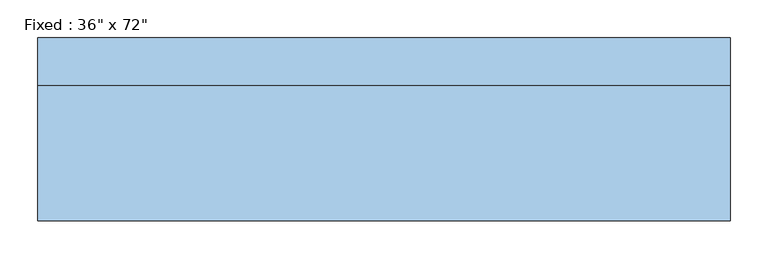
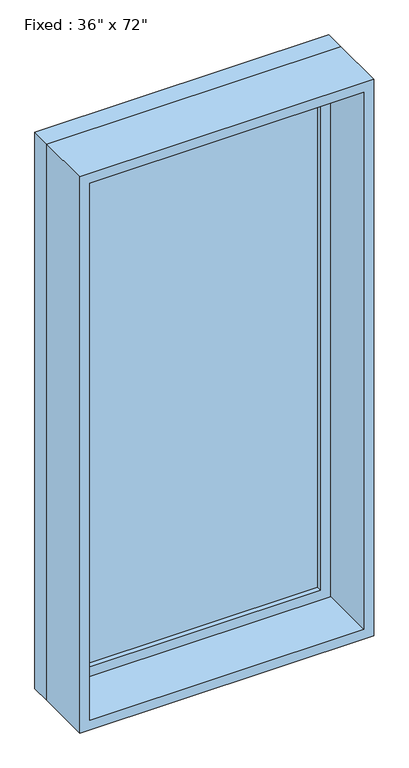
"""IFC4 building model written with IfcOpenShell, lengths in millimetres: window geometry."""

import ifcopenshell
import ifcopenshell.guid

model = None  # the IFC model being written
_history = None  # IfcOwnerHistory: only IFC2X3 demands one
_inside = {}  # id of a spatial element -> (the spatial element, [elements in it])
_under = {}  # id of a project, library or spatial element -> (it, [spatial elements below it])
_declared = {}  # id of a project -> (the project, [libraries it declares])
_typed = {}  # id of a type object -> (the type object, [elements of that type])
_made_of = {}  # id of a material, layer set ... -> (it, [elements and type objects made of it])


def new_model(schema):
    """Start an empty IFC model of exactly this schema.

    Asked for "IFC4X3", IfcOpenShell would pick the latest addendum, in which some entities
    have other attributes; the version numbers below select the first issue.
    IFC2X3 requires an IfcOwnerHistory on every rooted entity: one is made here for all.
    """
    global model, _history
    if schema == "IFC4X3":
        model = ifcopenshell.file(schema_version=(4, 3, 0, 0))
    else:
        model = ifcopenshell.file(schema=schema)
    _inside.clear()
    _under.clear()
    _declared.clear()
    _typed.clear()
    _made_of.clear()
    _history = None
    if model.schema == "IFC2X3":
        org = make("IfcOrganization", Name="unknown")
        user = make(
            "IfcPersonAndOrganization",
            ThePerson=make("IfcPerson", FamilyName="unknown"),
            TheOrganization=org,
        )
        app = make(
            "IfcApplication",
            ApplicationDeveloper=org,
            Version="unknown",
            ApplicationFullName="unknown",
            ApplicationIdentifier="unknown",
        )
        _history = make(
            "IfcOwnerHistory",
            OwningUser=user,
            OwningApplication=app,
            ChangeAction="ADDED",
            CreationDate=0,
        )
    return model


def make(cls, **values):
    """One entity of the class cls with the attributes given. An attribute that is None is left unset."""
    return model.create_entity(
        cls, **{name: value for name, value in values.items() if value is not None}
    )


def rooted(cls, **values):
    """An entity with a GlobalId (a new one), such as an element, a storey or a relation."""
    return make(cls, GlobalId=ifcopenshell.guid.new(), OwnerHistory=_history, **values)


def si_unit(unit_type, name, prefix=None):
    """IfcSIUnit, for example si_unit("LENGTHUNIT", "METRE", prefix="MILLI")."""
    return make("IfcSIUnit", UnitType=unit_type, Prefix=prefix, Name=name)


def assignment(units):
    """IfcUnitAssignment: the units of a project."""
    return None if units is None else make("IfcUnitAssignment", Units=units)


def point(xyz):
    """IfcCartesianPoint."""
    return None if xyz is None else make("IfcCartesianPoint", Coordinates=xyz)


def direction(xyz):
    """IfcDirection."""
    return None if xyz is None else make("IfcDirection", DirectionRatios=xyz)


def frame(location, z_axis=None, x_axis=None):
    """IfcAxis2Placement3D, a coordinate frame: its origin and axes. An axis left out is left unset."""
    return make(
        "IfcAxis2Placement3D",
        Location=point(location),
        Axis=direction(z_axis),
        RefDirection=direction(x_axis),
    )


def origin():
    """The frame at (0, 0, 0) with its axes left unset."""
    return frame((0.0, 0.0, 0.0))


def place(relative_to, where):
    """IfcLocalPlacement: puts the frame where relative to a parent placement (None: the world)."""
    return make(
        "IfcLocalPlacement", PlacementRelTo=relative_to, RelativePlacement=where
    )


def context(
    kind, dimensions, precision=None, world=None, true_north=None, identifier=None
):
    """IfcGeometricRepresentationContext, for example the 3D "Model" context."""
    return make(
        "IfcGeometricRepresentationContext",
        ContextIdentifier=identifier,
        ContextType=kind,
        CoordinateSpaceDimension=dimensions,
        Precision=precision,
        WorldCoordinateSystem=world,
        TrueNorth=true_north,
    )


def project(units=None, contexts=None):
    """IfcProject with its units and contexts."""
    return rooted(
        "IfcProject",
        Name="project",
        RepresentationContexts=contexts,
        UnitsInContext=assignment(units),
    )


def spatial(cls, under=None, at=None, **own):
    """A site, building, storey or space (cls), placed at a placement, below another one or the project."""
    s = rooted(cls, ObjectPlacement=at, **own)
    if under is not None:
        _under.setdefault(under.id(), (under, []))[1].append(s)
    return s


def polyline(points):
    """IfcPolyline through the points."""
    return make("IfcPolyline", Points=[point(p) for p in points])


def outline(outer, holes=None, kind="AREA"):
    """IfcArbitraryClosedProfileDef: a profile drawn as a closed curve; with holes, ...WithVoids."""
    if holes is None:
        return make("IfcArbitraryClosedProfileDef", ProfileType=kind, OuterCurve=outer)
    return make(
        "IfcArbitraryProfileDefWithVoids",
        ProfileType=kind,
        OuterCurve=outer,
        InnerCurves=holes,
    )


def extrude(swept, where, along, depth):
    """IfcExtrudedAreaSolid: the profile swept, set in the frame where, extruded along a direction by depth."""
    return make(
        "IfcExtrudedAreaSolid",
        SweptArea=swept,
        Position=where,
        ExtrudedDirection=direction(along),
        Depth=depth,
    )


def shape(context_of_items, identifier, shape_type, items):
    """IfcShapeRepresentation: the items that make up one representation, for example the "Body"."""
    return make(
        "IfcShapeRepresentation",
        ContextOfItems=context_of_items,
        RepresentationIdentifier=identifier,
        RepresentationType=shape_type,
        Items=items,
    )


def source(mapping_origin, context_of_items, identifier, shape_type, items):
    """IfcRepresentationMap: a shape defined once, which mapped items show again and again."""
    return make(
        "IfcRepresentationMap",
        MappingOrigin=mapping_origin,
        MappedRepresentation=shape(context_of_items, identifier, shape_type, items),
    )


def transform(
    local_origin,
    x_axis=None,
    y_axis=None,
    z_axis=None,
    scale=None,
    scale2=None,
    scale3=None,
    uniform=True,
):
    """IfcCartesianTransformationOperator3D, or its non-uniform kind. x_axis, y_axis, z_axis: its Axis1, 2, 3."""
    if uniform:
        return make(
            "IfcCartesianTransformationOperator3D",
            Axis1=direction(x_axis),
            Axis2=direction(y_axis),
            LocalOrigin=point(local_origin),
            Scale=scale,
            Axis3=direction(z_axis),
        )
    return make(
        "IfcCartesianTransformationOperator3DnonUniform",
        Axis1=direction(x_axis),
        Axis2=direction(y_axis),
        LocalOrigin=point(local_origin),
        Scale=scale,
        Axis3=direction(z_axis),
        Scale2=scale2,
        Scale3=scale3,
    )


def mapped(mapping_source, mapping_target):
    """IfcMappedItem: shows the shape of a source again, moved by a transform."""
    return make(
        "IfcMappedItem", MappingSource=mapping_source, MappingTarget=mapping_target
    )


def made_of(thing, what):
    """Note that an element or type object is made of a material, layer set ...; save() writes the relation."""
    if what is not None:
        _made_of.setdefault(what.id(), (what, []))[1].append(thing)
    return thing


def element(
    cls,
    number,
    at=None,
    inside=None,
    cuts=None,
    type_object=None,
    material=None,
    context=None,
    identifier="Body",
    shape_type=None,
    held_by="IfcProductDefinitionShape",
    body=None,
    shapes=None,
    **own,
):
    """One element of the class cls, such as IfcWall. Its Tag is "e" and its number.

    at: its placement. inside: the storey or other place that contains it. cuts: it is an
    opening in that element (IfcRelVoidsElement). A single representation is given by context,
    identifier, shape_type and body (its items); several are given by shapes. held_by: the class
    of the entity that holds the representations. save() writes the other relations.
    """
    e = rooted(cls, Tag="e%d" % number, ObjectPlacement=at, **own)
    if body is not None:
        shapes = [shape(context, identifier, shape_type, body)]
    if shapes is not None:
        e.Representation = make(held_by, Representations=shapes)
    if inside is not None:
        _inside.setdefault(inside.id(), (inside, []))[1].append(e)
    if cuts is not None:
        rooted(
            "IfcRelVoidsElement", RelatingBuildingElement=cuts, RelatedOpeningElement=e
        )
    if type_object is not None:
        _typed.setdefault(type_object.id(), (type_object, []))[1].append(e)
    return made_of(e, material)


def aggregate(whole, parts):
    """IfcRelAggregates: a whole, such as a stair, and the parts it consists of."""
    return rooted("IfcRelAggregates", RelatingObject=whole, RelatedObjects=parts)


def save(model, path):
    """Write the relations noted so far, then the file.

    IfcRelAggregates (storeys below a building ...), IfcRelContainedInSpatialStructure (elements
    in a storey), IfcRelDefinesByType, IfcRelAssociatesMaterial and IfcRelDeclares: one each for
    every whole, place, type object, material and project.
    """
    for whole, parts in _under.values():
        aggregate(whole, parts)
    for where, things in _inside.values():
        rooted(
            "IfcRelContainedInSpatialStructure",
            RelatedElements=things,
            RelatingStructure=where,
        )
    for kind, things in _typed.values():
        rooted("IfcRelDefinesByType", RelatedObjects=things, RelatingType=kind)
    for what, things in _made_of.values():
        rooted("IfcRelAssociatesMaterial", RelatedObjects=things, RelatingMaterial=what)
    for by, libraries in _declared.values():
        rooted("IfcRelDeclares", RelatingContext=by, RelatedDefinitions=libraries)
    model.write(path)


def window_01d578b7(model_context):
    return source(origin(), model_context, "Body", "SweptSolid", [
        extrude(outline(polyline([(355.6, 73.025), (-431.8, 73.025), (-431.8, 85.725), (355.6, 85.725), (355.6, 73.025)])), frame((0.0, 0.0, 977.9), z_axis=(0.0, 0.0, 1.0), x_axis=(1.0, 0.0, 0.0)), (0.0, 0.0, 1.0), 1701.8),
        extrude(outline(polyline([(2724.15, -476.25), (933.45, -476.25), (933.45, 400.05), (2724.15, 400.05), (2724.15, -476.25)]), holes=[polyline([(2679.7, -431.8), (2679.7, 355.6), (977.9, 355.6), (977.9, -431.8), (2679.7, -431.8)])]), frame((0.0, 57.15, 0.0), z_axis=(0.0, 1.0, 0.0), x_axis=(0.0, 0.0, 1.0)), (0.0, 0.0, 1.0), 44.45),
        extrude(outline(polyline([(2743.2, -495.3), (914.4, -495.3), (914.4, 419.1), (2743.2, 419.1), (2743.2, -495.3)]), holes=[polyline([(2711.45, -463.55), (2711.45, 387.35), (946.15, 387.35), (946.15, -463.55), (2711.45, -463.55)])]), frame((0.0, -120.65, 0.0), z_axis=(0.0, 1.0, 0.0), x_axis=(0.0, 0.0, 1.0)), (0.0, 0.0, 1.0), 177.8),
        extrude(outline(polyline([(2743.2, 419.1), (2743.2, -495.3), (914.4, -495.3), (914.4, 419.1), (2743.2, 419.1)]), holes=[polyline([(2724.15, 400.05), (933.45, 400.05), (933.45, -476.25), (2724.15, -476.25), (2724.15, 400.05)])]), frame((0.0, 57.15, 0.0), z_axis=(0.0, 1.0, 0.0), x_axis=(0.0, 0.0, 1.0)), (0.0, 0.0, 1.0), 63.5),
    ])


if __name__ == "__main__":
    model = new_model("IFC4")
    model_context = context("Model", 3, world=origin())
    ifc_project = project(units=[si_unit("LENGTHUNIT", "METRE", prefix="MILLI")], contexts=[model_context])
    site = spatial("IfcSite", under=ifc_project)
    building = spatial("IfcBuilding", under=site)
    placement = place(None, origin())
    window_shape = window_01d578b7(model_context)
    element("IfcWindow", 1, ObjectType="Fixed : 36\" x 72\"", at=placement, inside=building, context=model_context, shape_type="MappedRepresentation", body=[
        mapped(window_shape, transform((0.0, 0.0, 0.0), x_axis=(1.0, 0.0, 0.0), y_axis=(0.0, 1.0, 0.0), z_axis=(0.0, 0.0, 1.0))),
    ])
    save(model, "model.ifc")
